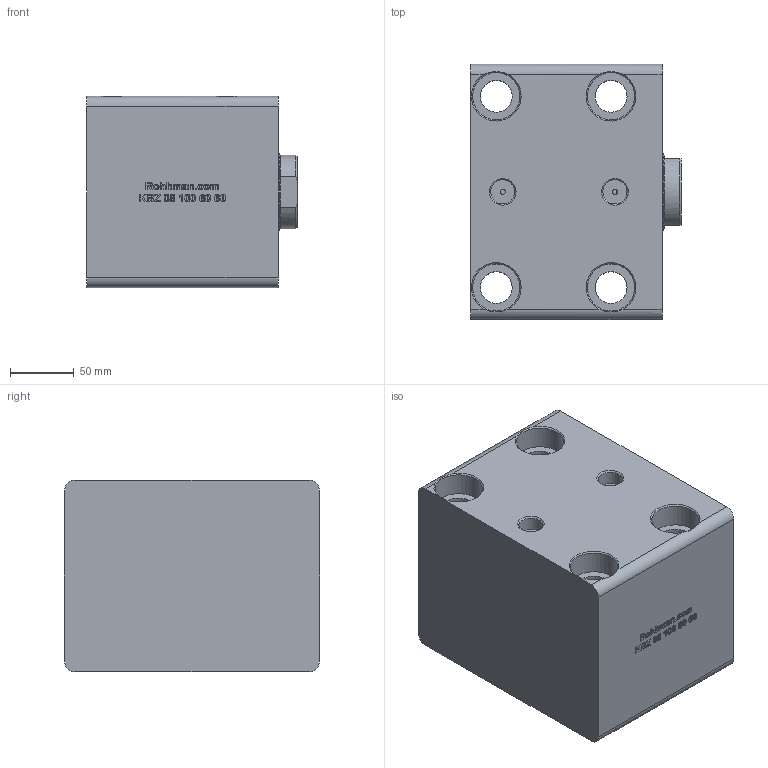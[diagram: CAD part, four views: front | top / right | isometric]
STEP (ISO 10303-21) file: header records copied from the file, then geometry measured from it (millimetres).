
FILE_DESCRIPTION(/* description */ (''),/* implementation_level */ '2;1');
FILE_NAME(/* name */ 'KBZ_08_100_60_60_WEB.step',/* time_stamp */ '2023-09-06T09:19:54+03:00',/* author */ (''),/* organization */ (''),/* preprocessor_version */ 'ST-DEVELOPER v20',/* originating_system */ 'Autodesk Translation Framework v12.9.0.99',/* authorisation */ '');
FILE_SCHEMA (('AUTOMOTIVE_DESIGN { 1 0 10303 214 3 1 1 }'));
Length unit declared in the file: millimetre
Products named in the file (6): KBZ_08_100_60_100_MONTAJ; KAPAK; KAPAK_1; GÖVDE; GÖVDE_1; Ø60_MİL
Assembly tree (5 placements, depth 3):
  KBZ_08_100_60_100_MONTAJ
    KAPAK
      KAPAK_1
    GÖVDE
      GÖVDE_1
    Ø60_MİL
Bounding box: 165 x 200 x 150 mm (x, y, z)
Volume: 3744010.9 mm3; surface area: 303681 mm2
Topology: 3 solids, 3 shells, 591 faces, 1602 edges, 1063 vertices
Faces by surface type: bspline 373, plane 172, cylinder 28, cone 18
Full cylindrical faces by diameter (mm): 4 x2, 5 x2, 18.901 x2, 25 x4, 37 x4, 37.464 x1, 60 x1, 60.5 x1, 100 x1, 110 x2, 120 x2
Entity records: 22286 total; most frequent: CARTESIAN_POINT 9741, ORIENTED_EDGE 3204, EDGE_CURVE 1602, DIRECTION 1381, VERTEX_POINT 1063, LINE 759, VECTOR 759, B_SPLINE_CURVE_WITH_KNOTS 756
